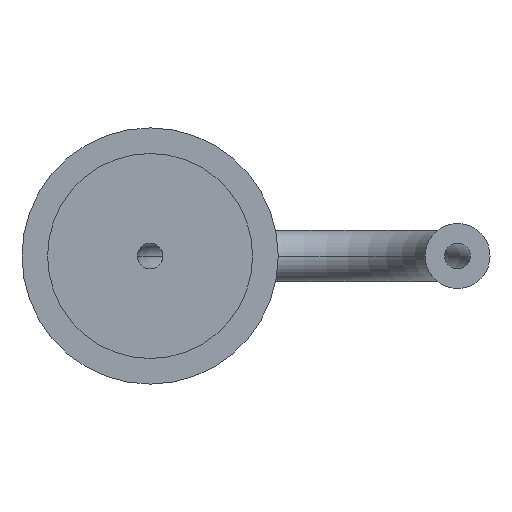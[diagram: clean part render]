
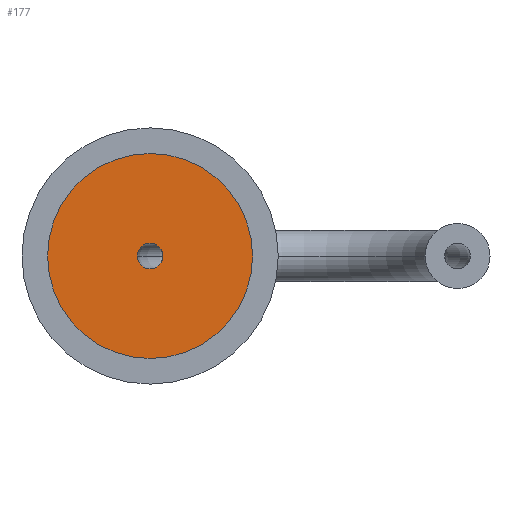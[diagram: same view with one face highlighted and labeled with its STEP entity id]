
A CAD part, left-side view. The second image highlights one B-rep face of the part: STEP entity #177.
In plain terms, the highlighted planar face has unit normal (-1, 0, 0).
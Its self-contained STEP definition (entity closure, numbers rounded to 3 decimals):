
#177 = ADVANCED_FACE ( 'NONE', ( #1340, #1324 ), #1323, .F. ) ;
#178 = EDGE_LOOP ( 'NONE', ( #179, #215 ) ) ;
#179 = ORIENTED_EDGE ( 'NONE', *, *, #195, .F. ) ;
#195 = EDGE_CURVE ( 'NONE', #871, #868, #1353, .T. ) ;
#215 = ORIENTED_EDGE ( 'NONE', *, *, #870, .F. ) ;
#216 = EDGE_LOOP ( 'NONE', ( #217, #218 ) ) ;
#217 = ORIENTED_EDGE ( 'NONE', *, *, #852, .T. ) ;
#218 = ORIENTED_EDGE ( 'NONE', *, *, #219, .T. ) ;
#219 = EDGE_CURVE ( 'NONE', #850, #853, #1432, .T. ) ;
#850 = VERTEX_POINT ( 'NONE', #3040 ) ;
#852 = EDGE_CURVE ( 'NONE', #853, #850, #3039, .T. ) ;
#853 = VERTEX_POINT ( 'NONE', #3034 ) ;
#868 = VERTEX_POINT ( 'NONE', #3070 ) ;
#870 = EDGE_CURVE ( 'NONE', #868, #871, #3131, .T. ) ;
#871 = VERTEX_POINT ( 'NONE', #3127 ) ;
#1319 = DIRECTION ( 'NONE',  ( 0., 0., -1. ) ) ;
#1320 = DIRECTION ( 'NONE',  ( 1., 0., 0. ) ) ;
#1321 = CARTESIAN_POINT ( 'NONE',  ( 0., 0., 0. ) ) ;
#1322 = AXIS2_PLACEMENT_3D ( 'NONE', #1321, #1320, #1319 ) ;
#1323 = PLANE ( 'NONE',  #1322 ) ;
#1324 = FACE_BOUND ( 'NONE', #216, .T. ) ;
#1340 = FACE_OUTER_BOUND ( 'NONE', #178, .T. ) ;
#1349 = DIRECTION ( 'NONE',  ( 0., 0., -1. ) ) ;
#1350 = DIRECTION ( 'NONE',  ( 1., 0., 0. ) ) ;
#1351 = CARTESIAN_POINT ( 'NONE',  ( 0., 0., 0. ) ) ;
#1352 = AXIS2_PLACEMENT_3D ( 'NONE', #1351, #1350, #1349 ) ;
#1353 = CIRCLE ( 'NONE', #1352, 12. ) ;
#1428 = DIRECTION ( 'NONE',  ( 0., 0., -1. ) ) ;
#1429 = DIRECTION ( 'NONE',  ( 1., 0., 0. ) ) ;
#1430 = CARTESIAN_POINT ( 'NONE',  ( 0., 0., 0. ) ) ;
#1431 = AXIS2_PLACEMENT_3D ( 'NONE', #1430, #1429, #1428 ) ;
#1432 = CIRCLE ( 'NONE', #1431, 1.5 ) ;
#3034 = CARTESIAN_POINT ( 'NONE',  ( 0., 0., 1.5 ) ) ;
#3035 = DIRECTION ( 'NONE',  ( 0., 0., -1. ) ) ;
#3036 = DIRECTION ( 'NONE',  ( 1., 0., 0. ) ) ;
#3037 = CARTESIAN_POINT ( 'NONE',  ( 0., 0., 0. ) ) ;
#3038 = AXIS2_PLACEMENT_3D ( 'NONE', #3037, #3036, #3035 ) ;
#3039 = CIRCLE ( 'NONE', #3038, 1.5 ) ;
#3040 = CARTESIAN_POINT ( 'NONE',  ( 0., 0., -1.5 ) ) ;
#3069 = CARTESIAN_POINT ( 'NONE',  ( 0., 0., 0. ) ) ;
#3070 = CARTESIAN_POINT ( 'NONE',  ( 0., 0., -12. ) ) ;
#3127 = CARTESIAN_POINT ( 'NONE',  ( 0., 0., 12. ) ) ;
#3128 = DIRECTION ( 'NONE',  ( 0., 0., -1. ) ) ;
#3129 = DIRECTION ( 'NONE',  ( 1., 0., 0. ) ) ;
#3130 = AXIS2_PLACEMENT_3D ( 'NONE', #3069, #3129, #3128 ) ;
#3131 = CIRCLE ( 'NONE', #3130, 12. ) ;
